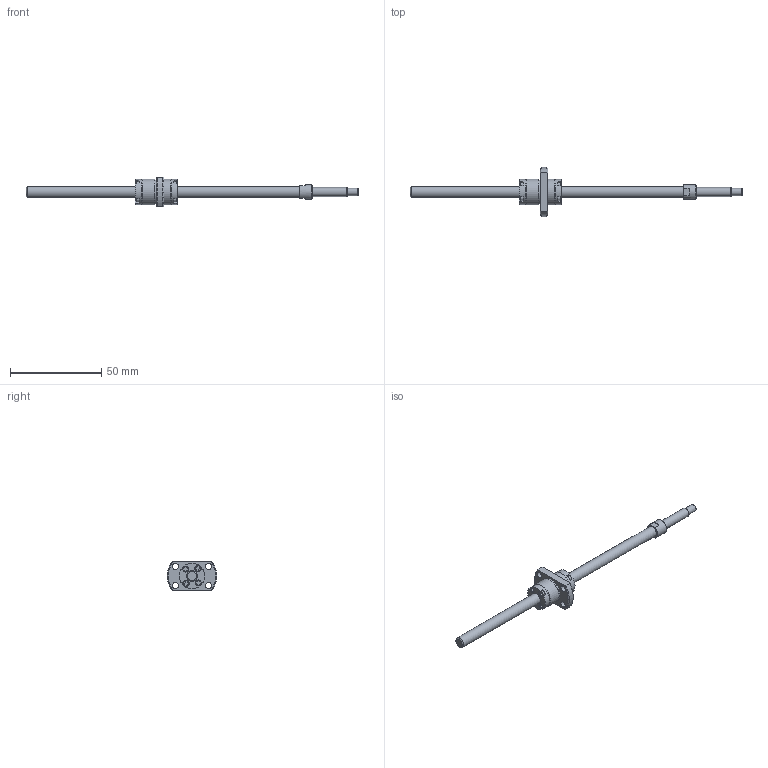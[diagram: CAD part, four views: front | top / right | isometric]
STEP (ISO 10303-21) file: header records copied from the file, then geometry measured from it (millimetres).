
FILE_DESCRIPTION(/* description */ ('STEP AP214'),/* implementation_level */ '2;1');
FILE_NAME(/* name */ 'SRT0610-146R182C7A0X(60Processing)',/* time_stamp */ '2026-08-04T17:57:20+02:00',/* author */ ('License CC BY-ND 4.0'),/* organization */ ('CADENAS'),/* preprocessor_version */ 'ST-DEVELOPER v20',/* originating_system */ 'PARTsolutions',/* authorisation */ ' ');
FILE_SCHEMA (('AUTOMOTIVE_DESIGN {1 0 10303 214 3 1 1}'));
Length unit declared in the file: millimetre
Products named in the file (3): SRT0610-146R182C7A0X(60Processing); SRT0610-146R220ACt7Processing25Shaft; SRT0610Nut
Assembly tree (2 placements, depth 2):
  SRT0610-146R182C7A0X(60Processing)
    SRT0610-146R220ACt7Processing25Shaft
    SRT0610Nut
Bounding box: 182 x 27 x 16 mm (x, y, z)
Volume: 8641.3 mm3; surface area: 6119.3 mm2
Topology: 2 solids, 2 shells, 149 faces, 356 edges, 235 vertices
Faces by surface type: plane 106, cylinder 32, cone 10, torus 1
Full cylindrical faces by diameter (mm): 3 x8, 3.4 x4, 4 x1, 5 x1, 6 x2, 8 x1, 13.6 x1, 13.8 x2, 14 x2
Entity records: 4237 total; most frequent: CARTESIAN_POINT 732, DIRECTION 712, ORIENTED_EDGE 648, EDGE_CURVE 324, AXIS2_PLACEMENT_3D 244, VERTEX_POINT 232, LINE 224, VECTOR 224
